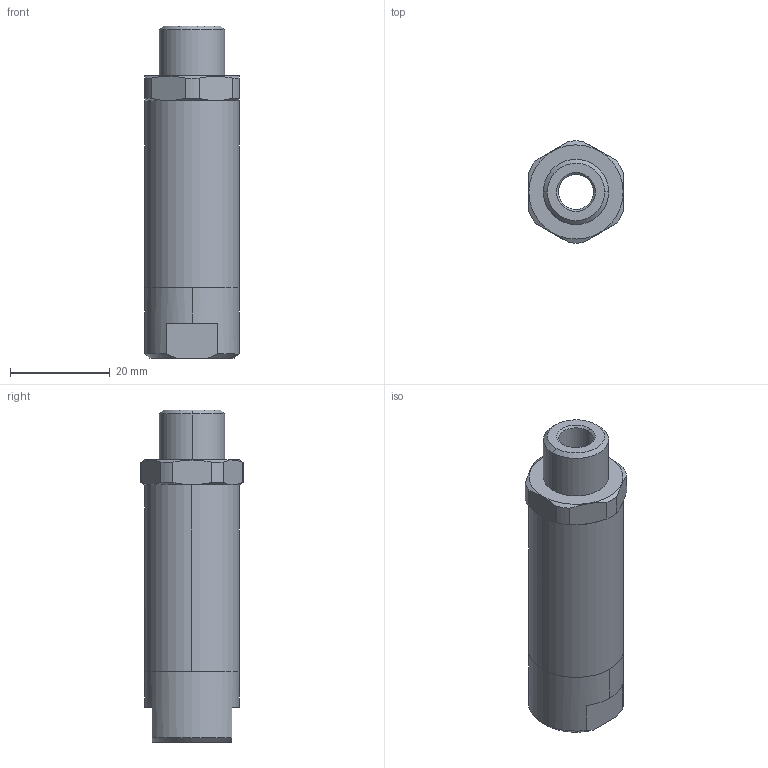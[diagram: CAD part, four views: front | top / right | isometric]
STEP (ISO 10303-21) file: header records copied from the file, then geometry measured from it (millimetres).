
FILE_DESCRIPTION (( 'STEP AP214' ), '1' );
FILE_NAME ('Part Toolreg 1-4 M F.STEP', '2011-05-31T08:09:47', ( ' ' ), ( '' ), 'SwSTEP 2.0', 'SolidWorks 2011', '' );
FILE_SCHEMA (( 'AUTOMOTIVE_DESIGN' ));
Length unit declared in the file: millimetre
Products named in the file (1): Part Toolreg 1-4 M F
Bounding box: 19.02 x 20.48 x 66.6 mm (x, y, z)
Surface area: 5309.7 mm2 (no closed solid volume)
Topology: 0 solids, 3 shells, 46 faces, 120 edges, 80 vertices
Faces by surface type: cylinder 18, plane 16, cone 12
Entity records: 2085 total; most frequent: CARTESIAN_POINT 419, DIRECTION 244, ORIENTED_EDGE 226, EDGE_CURVE 120, AXIS2_PLACEMENT_3D 101, VERTEX_POINT 80, CIRCLE 54, EDGE_LOOP 53
